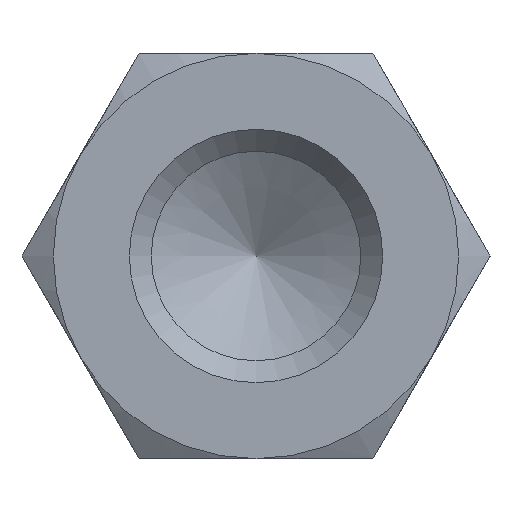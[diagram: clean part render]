
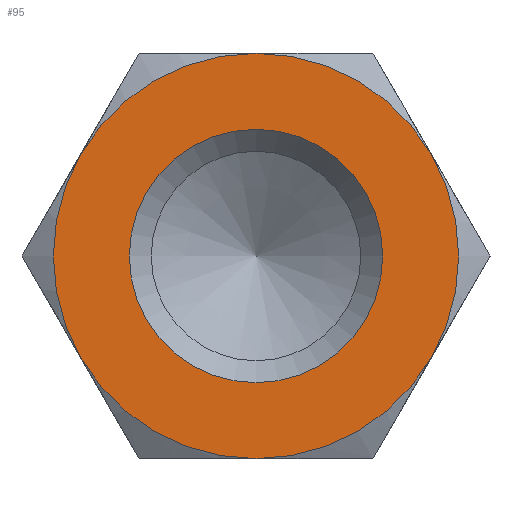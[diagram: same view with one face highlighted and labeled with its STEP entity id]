
A CAD part, left-side view. The second image highlights one B-rep face of the part: STEP entity #95.
In plain terms, the highlighted planar face has unit normal (-1, 0, 0).
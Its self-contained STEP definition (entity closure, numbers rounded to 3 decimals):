
#95 = ADVANCED_FACE( '', ( #147, #148 ), #149, .F. );
#147 = FACE_OUTER_BOUND( '', #206, .T. );
#148 = FACE_BOUND( '', #207, .T. );
#149 = PLANE( '', #208 );
#206 = EDGE_LOOP( '', ( #356, #357, #358, #359, #360, #361 ) );
#207 = EDGE_LOOP( '', ( #362 ) );
#208 = AXIS2_PLACEMENT_3D( '', #363, #364, #365 );
#356 = ORIENTED_EDGE( '', *, *, #440, .F. );
#357 = ORIENTED_EDGE( '', *, *, #425, .F. );
#358 = ORIENTED_EDGE( '', *, *, #441, .F. );
#359 = ORIENTED_EDGE( '', *, *, #437, .F. );
#360 = ORIENTED_EDGE( '', *, *, #442, .F. );
#361 = ORIENTED_EDGE( '', *, *, #443, .F. );
#362 = ORIENTED_EDGE( '', *, *, #439, .T. );
#363 = CARTESIAN_POINT( '', ( -40., 0., 0. ) );
#364 = DIRECTION( '', ( 1., 0., 0. ) );
#365 = DIRECTION( '', ( 0., 0., -1. ) );
#425 = EDGE_CURVE( '', #495, #493, #497, .T. );
#437 = EDGE_CURVE( '', #447, #506, #513, .T. );
#439 = EDGE_CURVE( '', #516, #516, #517, .T. );
#440 = EDGE_CURVE( '', #493, #486, #518, .T. );
#441 = EDGE_CURVE( '', #506, #495, #519, .T. );
#442 = EDGE_CURVE( '', #481, #447, #520, .T. );
#443 = EDGE_CURVE( '', #486, #481, #521, .T. );
#447 = VERTEX_POINT( '', #525 );
#481 = VERTEX_POINT( '', #595 );
#486 = VERTEX_POINT( '', #611 );
#493 = VERTEX_POINT( '', #632 );
#495 = VERTEX_POINT( '', #637 );
#497 = CIRCLE( '', #644, 4. );
#506 = VERTEX_POINT( '', #670 );
#513 = CIRCLE( '', #701, 4. );
#516 = VERTEX_POINT( '', #704 );
#517 = CIRCLE( '', #705, 2.5 );
#518 = CIRCLE( '', #706, 4. );
#519 = CIRCLE( '', #707, 4. );
#520 = CIRCLE( '', #708, 4. );
#521 = CIRCLE( '', #709, 4. );
#525 = CARTESIAN_POINT( '', ( -40., -3.464, 2. ) );
#595 = CARTESIAN_POINT( '', ( -40., 0., 4. ) );
#611 = CARTESIAN_POINT( '', ( -40., 3.464, 2. ) );
#632 = CARTESIAN_POINT( '', ( -40., 3.464, -2. ) );
#637 = CARTESIAN_POINT( '', ( -40., 0., -4. ) );
#644 = AXIS2_PLACEMENT_3D( '', #744, #745, #746 );
#670 = CARTESIAN_POINT( '', ( -40., -3.464, -2. ) );
#701 = AXIS2_PLACEMENT_3D( '', #749, #750, #751 );
#704 = CARTESIAN_POINT( '', ( -40., 2.5, 0. ) );
#705 = AXIS2_PLACEMENT_3D( '', #755, #756, #757 );
#706 = AXIS2_PLACEMENT_3D( '', #758, #759, #760 );
#707 = AXIS2_PLACEMENT_3D( '', #761, #762, #763 );
#708 = AXIS2_PLACEMENT_3D( '', #764, #765, #766 );
#709 = AXIS2_PLACEMENT_3D( '', #767, #768, #769 );
#744 = CARTESIAN_POINT( '', ( -40., 0., 0. ) );
#745 = DIRECTION( '', ( 1., 0., 0. ) );
#746 = DIRECTION( '', ( 0., 0., -1. ) );
#749 = CARTESIAN_POINT( '', ( -40., 0., 0. ) );
#750 = DIRECTION( '', ( 1., 0., 0. ) );
#751 = DIRECTION( '', ( 0., 0., -1. ) );
#755 = CARTESIAN_POINT( '', ( -40., 0., 0. ) );
#756 = DIRECTION( '', ( 1., 0., 0. ) );
#757 = DIRECTION( '', ( 0., 1., 0. ) );
#758 = CARTESIAN_POINT( '', ( -40., 0., 0. ) );
#759 = DIRECTION( '', ( 1., 0., 0. ) );
#760 = DIRECTION( '', ( 0., 0., -1. ) );
#761 = CARTESIAN_POINT( '', ( -40., 0., 0. ) );
#762 = DIRECTION( '', ( 1., 0., 0. ) );
#763 = DIRECTION( '', ( 0., 0., -1. ) );
#764 = CARTESIAN_POINT( '', ( -40., 0., 0. ) );
#765 = DIRECTION( '', ( 1., 0., 0. ) );
#766 = DIRECTION( '', ( 0., 0., -1. ) );
#767 = CARTESIAN_POINT( '', ( -40., 0., 0. ) );
#768 = DIRECTION( '', ( 1., 0., 0. ) );
#769 = DIRECTION( '', ( 0., 0., -1. ) );
